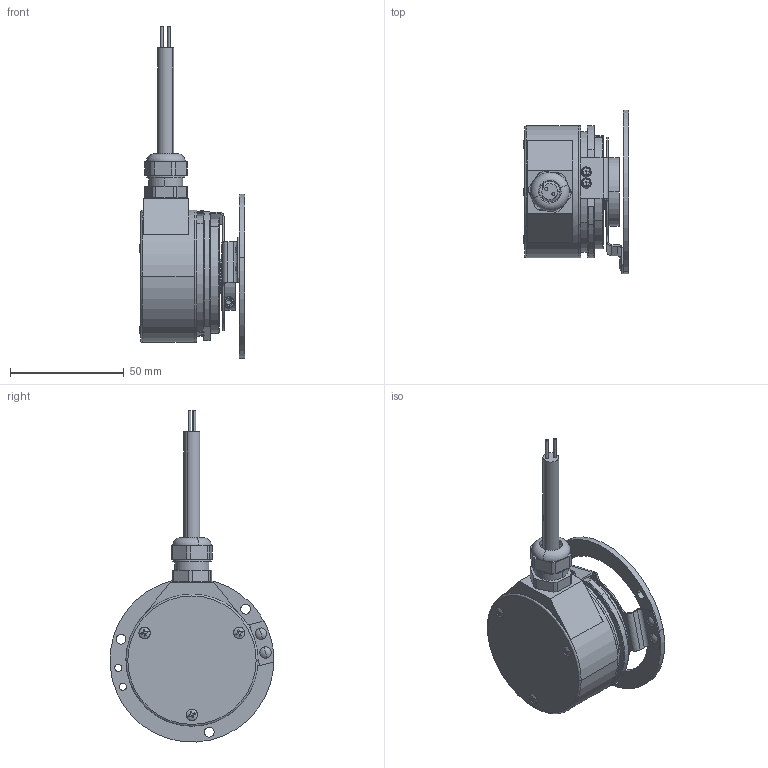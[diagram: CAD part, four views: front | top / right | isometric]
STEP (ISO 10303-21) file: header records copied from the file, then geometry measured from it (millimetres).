
FILE_DESCRIPTION (( 'STEP AP203' ), '1' );
FILE_NAME ('5824.45X1.XXXX.STEP', '2011-09-14T13:43:23', ( 'Hodot' ), ( 'Kuebler' ), 'SwSTEP 2.0', 'SolidWorks 2009', '' );
FILE_SCHEMA (( 'CONFIG_CONTROL_DESIGN' ));
Length unit declared in the file: millimetre
Products named in the file (1): 5824.45X1.XXXX
Bounding box: 46.38 x 71.92 x 145.83 mm (x, y, z)
Volume: 59409.5 mm3; surface area: 44761.8 mm2
Topology: 20 solids, 20 shells, 614 faces, 1467 edges, 910 vertices
Faces by surface type: cylinder 227, plane 223, cone 108, torus 42, sphere 14
Entity records: 18146 total; most frequent: CARTESIAN_POINT 3464, DIRECTION 3279, ORIENTED_EDGE 2874, EDGE_CURVE 1437, AXIS2_PLACEMENT_3D 1291, VERTEX_POINT 910, EDGE_LOOP 711, VECTOR 697
